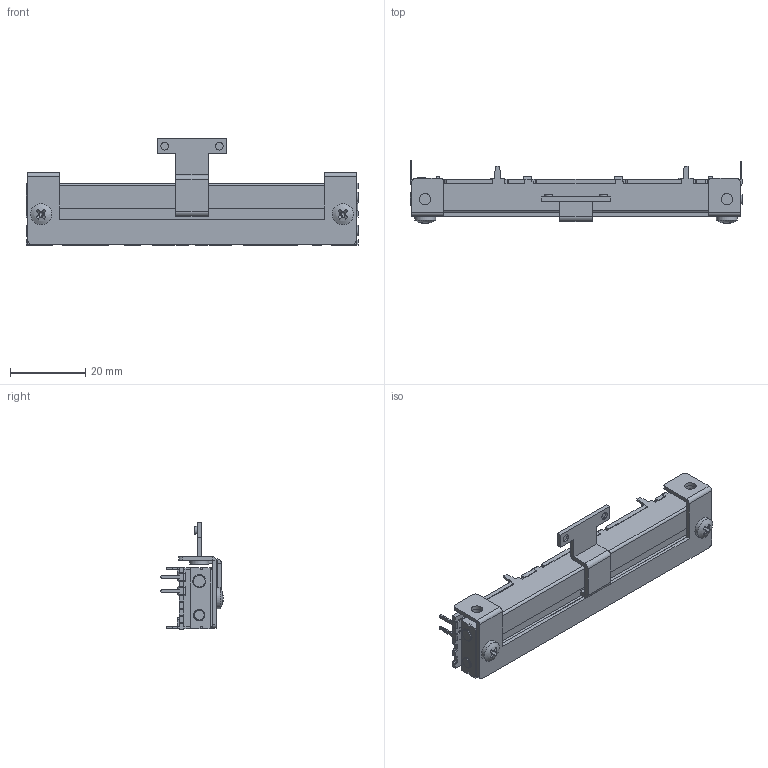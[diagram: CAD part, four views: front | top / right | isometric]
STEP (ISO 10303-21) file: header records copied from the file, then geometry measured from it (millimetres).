
FILE_DESCRIPTION(('FreeCAD Model'),'2;1');
FILE_NAME('Open CASCADE Shape Model','2023-03-16T15:14:13',(''),(''), 'Open CASCADE STEP processor 7.6','FreeCAD','Unknown');
FILE_SCHEMA(('AUTOMOTIVE_DESIGN { 1 0 10303 214 1 1 1 1 }'));
Length unit declared in the file: millimetre
Products named in the file (1): Fusion014
Bounding box: 88 x 16.55 x 28.25 mm (x, y, z)
Volume: 13306.3 mm3; surface area: 7039.9 mm2
Topology: 2 solids, 8 shells, 603 faces, 1584 edges, 1011 vertices
Faces by surface type: plane 442, cylinder 141, cone 15, torus 3, sphere 2
Full cylindrical faces by diameter (mm): 0.5 x9, 1.5 x3, 1.7 x8, 2 x4, 2.5 x2, 3 x11, 3.2 x2, 3.5 x1, 5 x2, 5.6 x2
Entity records: 41916 total; most frequent: CARTESIAN_POINT 8688, DIRECTION 5185, ORIENTED_EDGE 3164, PCURVE 3164, DEFINITIONAL_REPRESENTATION 3164, LINE 2987, VECTOR 2987, EDGE_CURVE 1582
